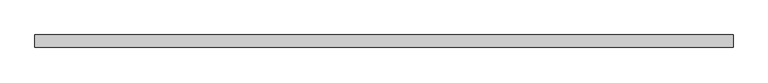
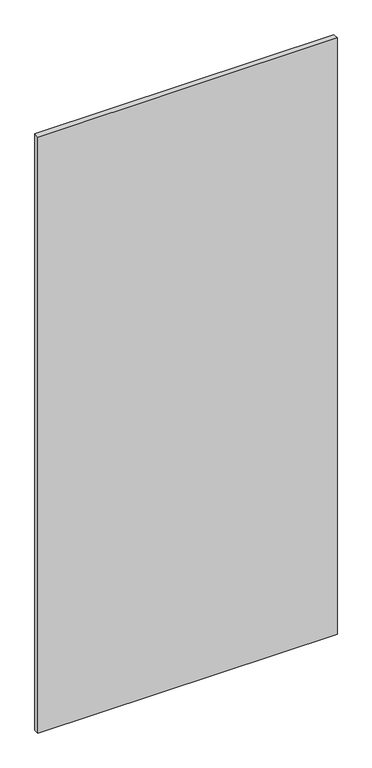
"""IFC4 building model written with IfcOpenShell, lengths in millimetres: plate geometry, Системная панель : С остеклением."""

from ifc_helpers import new_model, si_unit, origin, origin_with_axes, place, context, project, spatial, polyline, outline, extrude, source, transform, mapped, element, save


def plate_6ca32698(model_context):
    return source(origin(), model_context, "Body", "SweptSolid", [
        extrude(outline(polyline([(700.0, 24.5), (-700.0, 24.5), (-700.0, 49.5), (700.0, 49.5), (700.0, 24.5)])), origin_with_axes(), (0.0, 0.0, 1.0), 2950.0),
    ])


if __name__ == "__main__":
    model = new_model("IFC4")
    model_context = context("Model", 3, world=origin())
    ifc_project = project(units=[si_unit("LENGTHUNIT", "METRE", prefix="MILLI")], contexts=[model_context])
    site = spatial("IfcSite", under=ifc_project)
    building = spatial("IfcBuilding", under=site)
    placement = place(None, origin())
    plate_shape = plate_6ca32698(model_context)
    element("IfcPlate", 1, ObjectType="Системная панель : С остеклением", at=placement, inside=building, context=model_context, shape_type="MappedRepresentation", body=[
        mapped(plate_shape, transform((0.0, 0.0, 0.0), x_axis=(1.0, 0.0, 0.0), y_axis=(0.0, 1.0, 0.0), z_axis=(0.0, 0.0, 1.0))),
    ])
    save(model, "model.ifc")
